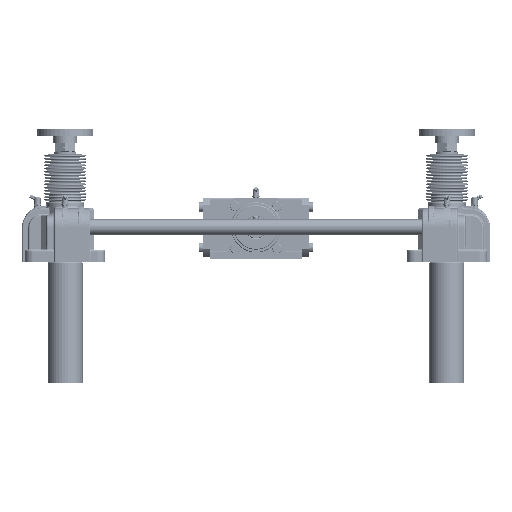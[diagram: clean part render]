
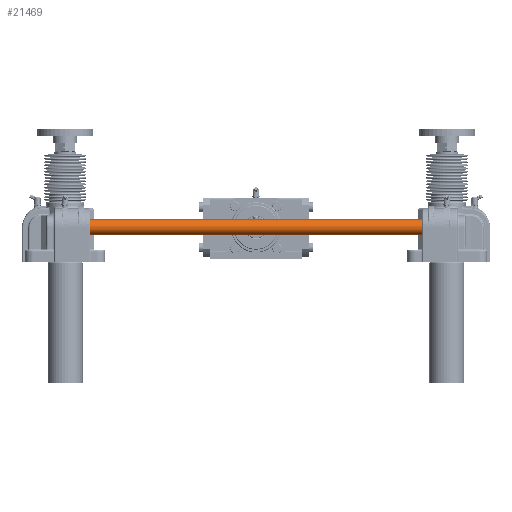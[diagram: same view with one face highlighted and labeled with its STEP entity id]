
A CAD part, left-side view. The second image highlights one B-rep face of the part: STEP entity #21469.
In plain terms, the highlighted cylindrical face has radius 12.5 mm (diameter 25 mm), a full revolution.
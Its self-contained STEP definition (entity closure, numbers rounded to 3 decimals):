
#21469=ADVANCED_FACE('',(#50695,#50696),#50697,.T.);
#50695=FACE_OUTER_BOUND('',#94040,.T.);
#50696=FACE_OUTER_BOUND('',#94041,.T.);
#50697=CYLINDRICAL_SURFACE('',#94042,12.5);
#94040=EDGE_LOOP('',(#210765));
#94041=EDGE_LOOP('',(#210766));
#94042=AXIS2_PLACEMENT_3D('',#210767,#210768,#210769);
#210765=ORIENTED_EDGE('',*,*,#248471,.T.);
#210766=ORIENTED_EDGE('',*,*,#248468,.T.);
#210767=CARTESIAN_POINT('',(0.0,0.0,642.0));
#210768=DIRECTION('',(0.0,0.0,-1.0));
#210769=DIRECTION('',(-1.0,0.0,0.0));
#248468=EDGE_CURVE('',#311223,#311223,#311224,.F.);
#248471=EDGE_CURVE('',#311229,#311229,#311230,.T.);
#311223=VERTEX_POINT('',#425468);
#311224=CIRCLE('',#425469,12.5);
#311229=VERTEX_POINT('',#425474);
#311230=CIRCLE('',#425475,12.5);
#425468=CARTESIAN_POINT('',(12.5,0.0,641.0));
#425469=AXIS2_PLACEMENT_3D('',#467987,#467988,#467989);
#425474=CARTESIAN_POINT('',(12.5,0.0,1.0));
#425475=AXIS2_PLACEMENT_3D('',#467996,#467997,#467998);
#467987=CARTESIAN_POINT('',(0.0,0.0,641.0));
#467988=DIRECTION('',(0.0,0.0,1.0));
#467989=DIRECTION('',(1.0,0.0,0.0));
#467996=CARTESIAN_POINT('',(0.0,0.0,1.0));
#467997=DIRECTION('',(0.0,0.0,1.0));
#467998=DIRECTION('',(1.0,0.0,0.0));
